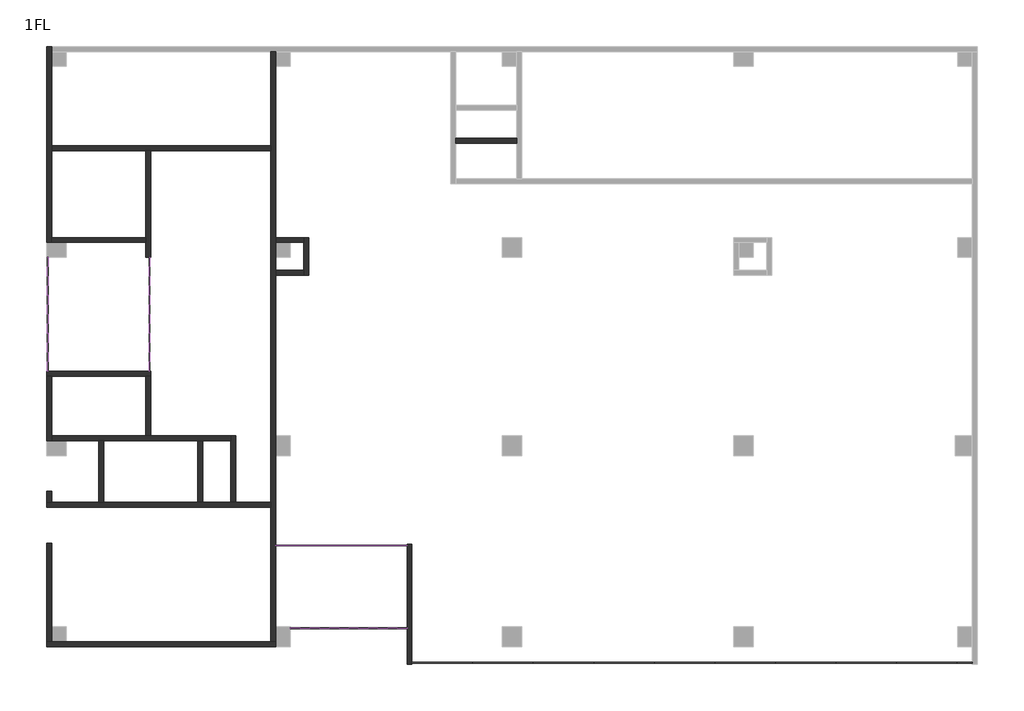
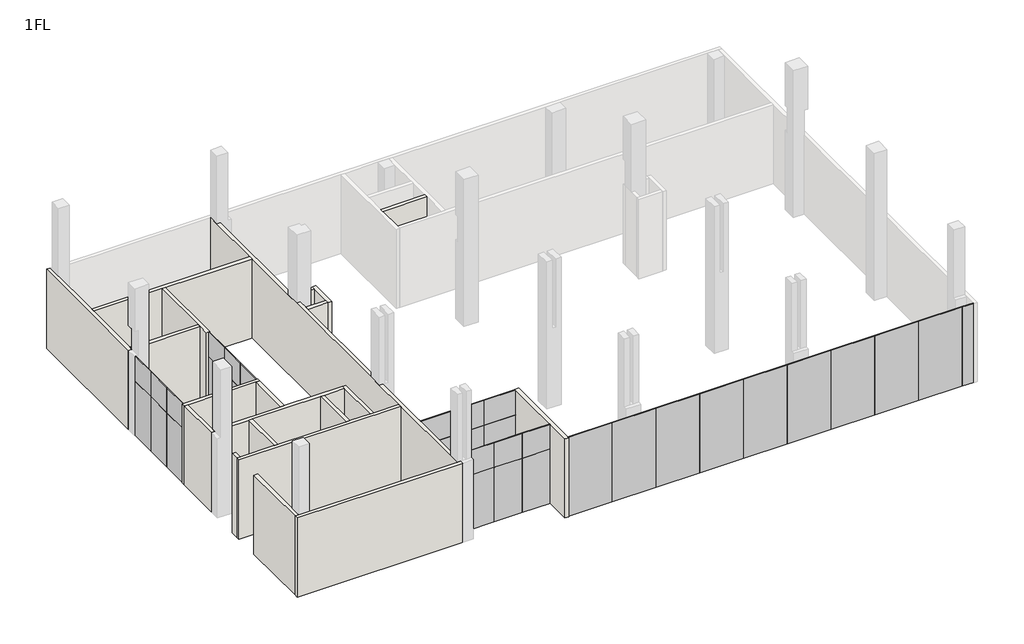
# One storey, part 1 of 2: 34 plates, 21 walls.
"""IFC4 building model written with IfcOpenShell, lengths in millimetres."""

from ifc_helpers import new_model, si_unit, frame, origin, place, context, project, spatial, polyline, outline, extrude, faceted_brep, transform, mapped, element, save
from components import plate_597a431c, plate_265bd5af, plate_b5d6bf1f, plate_1c8cb44b, plate_1488bce0, plate_3adb60b4, plate_892399b0, plate_38e41338, plate_80cdc29d, plate_bbb8b8d4

model = new_model("IFC4")

# Units and contexts
model_context = context("Model", 3, world=origin())
ifc_project = project(units=[si_unit("LENGTHUNIT", "METRE", prefix="MILLI")], contexts=[model_context])

# Site, building, storey
site = spatial("IfcSite", under=ifc_project)
building = spatial("IfcBuilding", under=site)
storey = spatial("IfcBuildingStorey", under=building, Name="1FL", Elevation=100.0)

# Plates
placement = place(None, origin())
plate_shape = plate_597a431c(model_context)
element("IfcPlate", 1, ObjectType="システム パネル : ガラス", at=placement, inside=storey, context=model_context, shape_type="MappedRepresentation", body=[
    mapped(plate_shape, transform((-11729.4943914, -6935.4527426, 100.0), x_axis=(1.0, 0.0, 0.0), y_axis=(0.0, 1.0, 0.0), z_axis=(0.0, 0.0, 1.0))),
])
element("IfcPlate", 2, ObjectType="システム パネル : ガラス", at=placement, inside=storey, context=model_context, shape_type="MappedRepresentation", body=[
    mapped(plate_shape, transform((-10554.4943915, -6935.4527426, 100.0), x_axis=(1.0, 0.0, 0.0), y_axis=(0.0, 1.0, 0.0), z_axis=(0.0, 0.0, 1.0))),
])
element("IfcPlate", 3, ObjectType="システム パネル : ガラス", at=placement, inside=storey, context=model_context, shape_type="MappedRepresentation", body=[
    mapped(plate_shape, transform((-9379.4943915, -6935.4527426, 100.0), x_axis=(1.0, 0.0, 0.0), y_axis=(0.0, 1.0, 0.0), z_axis=(0.0, 0.0, 1.0))),
])
plate_2_shape = plate_265bd5af(model_context)
element("IfcPlate", 4, ObjectType="システム パネル : ガラス", at=placement, inside=storey, context=model_context, shape_type="MappedRepresentation", body=[
    mapped(plate_2_shape, transform((-12104.4943914, -4435.4527426, 100.0), x_axis=(1.0, 0.0, 0.0), y_axis=(0.0, 1.0, 0.0), z_axis=(0.0, 0.0, 1.0))),
])
element("IfcPlate", 5, ObjectType="システム パネル : ガラス", at=placement, inside=storey, context=model_context, shape_type="MappedRepresentation", body=[
    mapped(plate_2_shape, transform((-10779.4943915, -4435.4527426, 100.0), x_axis=(1.0, 0.0, 0.0), y_axis=(0.0, 1.0, 0.0), z_axis=(0.0, 0.0, 1.0))),
])
element("IfcPlate", 6, ObjectType="システム パネル : ガラス", at=placement, inside=storey, context=model_context, shape_type="MappedRepresentation", body=[
    mapped(plate_2_shape, transform((-9454.4943915, -4435.4527426, 100.0), x_axis=(1.0, 0.0, 0.0), y_axis=(0.0, 1.0, 0.0), z_axis=(0.0, 0.0, 1.0))),
])
plate_3_shape = plate_b5d6bf1f(model_context)
element("IfcPlate", 7, ObjectType="システム パネル : ガラス", at=placement, inside=storey, context=model_context, shape_type="MappedRepresentation", body=[
    mapped(plate_3_shape, transform((-19616.9943915, 1364.5472575, 100.0), x_axis=(0.0, 1.0, 0.0), y_axis=(-1.0, 0.0, 0.0), z_axis=(0.0, 0.0, 1.0))),
])
element("IfcPlate", 8, ObjectType="システム パネル : ガラス", at=placement, inside=storey, context=model_context, shape_type="MappedRepresentation", body=[
    mapped(plate_3_shape, transform((-19616.9943915, 2514.5472574, 100.0), x_axis=(0.0, 1.0, 0.0), y_axis=(-1.0, 0.0, 0.0), z_axis=(0.0, 0.0, 1.0))),
])
element("IfcPlate", 9, ObjectType="システム パネル : ガラス", at=placement, inside=storey, context=model_context, shape_type="MappedRepresentation", body=[
    mapped(plate_3_shape, transform((-19616.9943915, 3664.5472574, 100.0), x_axis=(0.0, 1.0, 0.0), y_axis=(-1.0, 0.0, 0.0), z_axis=(0.0, 0.0, 1.0))),
])
plate_4_shape = plate_1c8cb44b(model_context)
element("IfcPlate", 10, ObjectType="システム パネル : ガラス", at=placement, inside=storey, context=model_context, shape_type="MappedRepresentation", body=[
    mapped(plate_4_shape, transform((-16616.9943915, 1364.5472575, 100.0), x_axis=(0.0, 1.0, 0.0), y_axis=(-1.0, 0.0, 0.0), z_axis=(0.0, 0.0, 1.0))),
])
element("IfcPlate", 11, ObjectType="システム パネル : ガラス", at=placement, inside=storey, context=model_context, shape_type="MappedRepresentation", body=[
    mapped(plate_4_shape, transform((-16616.9943915, 2514.5472574, 100.0), x_axis=(0.0, 1.0, 0.0), y_axis=(-1.0, 0.0, 0.0), z_axis=(0.0, 0.0, 1.0))),
])
element("IfcPlate", 12, ObjectType="システム パネル : ガラス", at=placement, inside=storey, context=model_context, shape_type="MappedRepresentation", body=[
    mapped(plate_4_shape, transform((-16616.9943915, 3664.5472574, 100.0), x_axis=(0.0, 1.0, 0.0), y_axis=(-1.0, 0.0, 0.0), z_axis=(0.0, 0.0, 1.0))),
])
plate_5_shape = plate_1488bce0(model_context)
element("IfcPlate", 13, ObjectType="システム パネル : ガラス", at=placement, inside=storey, context=model_context, shape_type="MappedRepresentation", body=[
    mapped(plate_5_shape, transform((-11729.4943914, -6935.4527426, 2500.0), x_axis=(1.0, 0.0, 0.0), y_axis=(0.0, 1.0, 0.0), z_axis=(0.0, 0.0, 1.0))),
])
element("IfcPlate", 14, ObjectType="システム パネル : ガラス", at=placement, inside=storey, context=model_context, shape_type="MappedRepresentation", body=[
    mapped(plate_5_shape, transform((-10554.4943915, -6935.4527426, 2500.0), x_axis=(1.0, 0.0, 0.0), y_axis=(0.0, 1.0, 0.0), z_axis=(0.0, 0.0, 1.0))),
])
element("IfcPlate", 15, ObjectType="システム パネル : ガラス", at=placement, inside=storey, context=model_context, shape_type="MappedRepresentation", body=[
    mapped(plate_5_shape, transform((-9379.4943915, -6935.4527426, 2500.0), x_axis=(1.0, 0.0, 0.0), y_axis=(0.0, 1.0, 0.0), z_axis=(0.0, 0.0, 1.0))),
])
plate_6_shape = plate_3adb60b4(model_context)
element("IfcPlate", 16, ObjectType="システム パネル : ガラス", at=placement, inside=storey, context=model_context, shape_type="MappedRepresentation", body=[
    mapped(plate_6_shape, transform((-12104.4943914, -4435.4527426, 2500.0), x_axis=(1.0, 0.0, 0.0), y_axis=(0.0, 1.0, 0.0), z_axis=(0.0, 0.0, 1.0))),
])
element("IfcPlate", 17, ObjectType="システム パネル : ガラス", at=placement, inside=storey, context=model_context, shape_type="MappedRepresentation", body=[
    mapped(plate_6_shape, transform((-10779.4943915, -4435.4527426, 2500.0), x_axis=(1.0, 0.0, 0.0), y_axis=(0.0, 1.0, 0.0), z_axis=(0.0, 0.0, 1.0))),
])
element("IfcPlate", 18, ObjectType="システム パネル : ガラス", at=placement, inside=storey, context=model_context, shape_type="MappedRepresentation", body=[
    mapped(plate_6_shape, transform((-9454.4943915, -4435.4527426, 2500.0), x_axis=(1.0, 0.0, 0.0), y_axis=(0.0, 1.0, 0.0), z_axis=(0.0, 0.0, 1.0))),
])
plate_7_shape = plate_892399b0(model_context)
element("IfcPlate", 19, ObjectType="システム パネル : ガラス", at=placement, inside=storey, context=model_context, shape_type="MappedRepresentation", body=[
    mapped(plate_7_shape, transform((-19616.9943915, 1364.5472575, 2500.0), x_axis=(0.0, 1.0, 0.0), y_axis=(-1.0, 0.0, 0.0), z_axis=(0.0, 0.0, 1.0))),
])
element("IfcPlate", 20, ObjectType="システム パネル : ガラス", at=placement, inside=storey, context=model_context, shape_type="MappedRepresentation", body=[
    mapped(plate_7_shape, transform((-19616.9943915, 2514.5472574, 2500.0), x_axis=(0.0, 1.0, 0.0), y_axis=(-1.0, 0.0, 0.0), z_axis=(0.0, 0.0, 1.0))),
])
element("IfcPlate", 21, ObjectType="システム パネル : ガラス", at=placement, inside=storey, context=model_context, shape_type="MappedRepresentation", body=[
    mapped(plate_7_shape, transform((-19616.9943915, 3664.5472574, 2500.0), x_axis=(0.0, 1.0, 0.0), y_axis=(-1.0, 0.0, 0.0), z_axis=(0.0, 0.0, 1.0))),
])
plate_8_shape = plate_38e41338(model_context)
element("IfcPlate", 22, ObjectType="システム パネル : ガラス", at=placement, inside=storey, context=model_context, shape_type="MappedRepresentation", body=[
    mapped(plate_8_shape, transform((-16616.9943915, 1364.5472575, 2500.0), x_axis=(0.0, 1.0, 0.0), y_axis=(-1.0, 0.0, 0.0), z_axis=(0.0, 0.0, 1.0))),
])
element("IfcPlate", 23, ObjectType="システム パネル : ガラス", at=placement, inside=storey, context=model_context, shape_type="MappedRepresentation", body=[
    mapped(plate_8_shape, transform((-16616.9943915, 2514.5472574, 2500.0), x_axis=(0.0, 1.0, 0.0), y_axis=(-1.0, 0.0, 0.0), z_axis=(0.0, 0.0, 1.0))),
])
element("IfcPlate", 24, ObjectType="システム パネル : ガラス", at=placement, inside=storey, context=model_context, shape_type="MappedRepresentation", body=[
    mapped(plate_8_shape, transform((-16616.9943915, 3664.5472574, 2500.0), x_axis=(0.0, 1.0, 0.0), y_axis=(-1.0, 0.0, 0.0), z_axis=(0.0, 0.0, 1.0))),
])
plate_9_shape = plate_80cdc29d(model_context)
element("IfcPlate", 25, ObjectType="システム パネル : ガラス", at=placement, inside=storey, context=model_context, shape_type="MappedRepresentation", body=[
    mapped(plate_9_shape, transform((-7726.9943913, -8060.4527426, 100.0), x_axis=(1.0, 0.0, 0.0), y_axis=(0.0, 1.0, 0.0), z_axis=(0.0, 0.0, 1.0))),
])
element("IfcPlate", 26, ObjectType="システム パネル : ガラス", at=placement, inside=storey, context=model_context, shape_type="MappedRepresentation", body=[
    mapped(plate_9_shape, transform((-5896.9943911, -8060.4527426, 100.0), x_axis=(1.0, 0.0, 0.0), y_axis=(0.0, 1.0, 0.0), z_axis=(0.0, 0.0, 1.0))),
])
element("IfcPlate", 27, ObjectType="システム パネル : ガラス", at=placement, inside=storey, context=model_context, shape_type="MappedRepresentation", body=[
    mapped(plate_9_shape, transform((-4066.9943911, -8060.4527426, 100.0), x_axis=(1.0, 0.0, 0.0), y_axis=(0.0, 1.0, 0.0), z_axis=(0.0, 0.0, 1.0))),
])
element("IfcPlate", 28, ObjectType="システム パネル : ガラス", at=placement, inside=storey, context=model_context, shape_type="MappedRepresentation", body=[
    mapped(plate_9_shape, transform((-2236.9943911, -8060.4527426, 100.0), x_axis=(1.0, 0.0, 0.0), y_axis=(0.0, 1.0, 0.0), z_axis=(0.0, 0.0, 1.0))),
])
element("IfcPlate", 29, ObjectType="システム パネル : ガラス", at=placement, inside=storey, context=model_context, shape_type="MappedRepresentation", body=[
    mapped(plate_9_shape, transform((-406.9943911, -8060.4527426, 100.0), x_axis=(1.0, 0.0, 0.0), y_axis=(0.0, 1.0, 0.0), z_axis=(0.0, 0.0, 1.0))),
])
element("IfcPlate", 30, ObjectType="システム パネル : ガラス", at=placement, inside=storey, context=model_context, shape_type="MappedRepresentation", body=[
    mapped(plate_9_shape, transform((1423.0056089, -8060.4527426, 100.0), x_axis=(1.0, 0.0, 0.0), y_axis=(0.0, 1.0, 0.0), z_axis=(0.0, 0.0, 1.0))),
])
element("IfcPlate", 31, ObjectType="システム パネル : ガラス", at=placement, inside=storey, context=model_context, shape_type="MappedRepresentation", body=[
    mapped(plate_9_shape, transform((3253.0056089, -8060.4527426, 100.0), x_axis=(1.0, 0.0, 0.0), y_axis=(0.0, 1.0, 0.0), z_axis=(0.0, 0.0, 1.0))),
])
element("IfcPlate", 32, ObjectType="システム パネル : ガラス", at=placement, inside=storey, context=model_context, shape_type="MappedRepresentation", body=[
    mapped(plate_9_shape, transform((5083.0056089, -8060.4527426, 100.0), x_axis=(1.0, 0.0, 0.0), y_axis=(0.0, 1.0, 0.0), z_axis=(0.0, 0.0, 1.0))),
])
element("IfcPlate", 33, ObjectType="システム パネル : ガラス", at=placement, inside=storey, context=model_context, shape_type="MappedRepresentation", body=[
    mapped(plate_9_shape, transform((6913.0056089, -8060.4527426, 100.0), x_axis=(1.0, 0.0, 0.0), y_axis=(0.0, 1.0, 0.0), z_axis=(0.0, 0.0, 1.0))),
])
plate_10_shape = plate_bbb8b8d4(model_context)
element("IfcPlate", 34, ObjectType="システム パネル : ガラス", at=placement, inside=storey, context=model_context, shape_type="MappedRepresentation", body=[
    mapped(plate_10_shape, transform((8068.0056087, -8060.4527426, 100.0), x_axis=(1.0, 0.0, 0.0), y_axis=(0.0, 1.0, 0.0), z_axis=(0.0, 0.0, 1.0))),
])

# Walls
element("IfcWall", 35, ObjectType="標準-150mm", at=placement, inside=storey, context=model_context, shape_type="Brep", body=[
    faceted_brep([(-12766.9943915, -7385.4527426, 100.0), (-12916.9943915, -7385.4527426, 100.0), (-19091.9943915, -7385.4527426, 100.0), (-19541.9943915, -7385.4527426, 100.0), (-19691.9943915, -7385.4527426, 100.0), (-19691.9943915, -7385.4527426, 3600.0), (-19541.9943915, -7385.4527426, 3600.0), (-12916.9943915, -7385.4527426, 3600.0), (-12766.9943915, -7385.4527426, 3600.0), (-12766.9943915, -7535.4527426, 100.0), (-12766.9943915, -7535.4527426, 3600.0), (-19691.9943915, -7535.4527426, 3600.0), (-19691.9943915, -7535.4527426, 100.0)], [[[0, 1, 2, 3, 4, 5, 6, 7, 8]], [[9, 10, 11, 12]], [[4, 3, 2, 1, 0, 9, 12]], [[8, 7, 6, 5, 11, 10]], [[5, 4, 12, 11]], [[0, 8, 10, 9]]]),
])
element("IfcWall", 36, ObjectType="標準-150mm", at=placement, inside=storey, context=model_context, shape_type="Brep", body=[
    faceted_brep([(-19541.9943915, -7385.4527426, 100.0), (-19541.9943915, -6935.4527426, 100.0), (-19541.9943915, -4410.4527426, 100.0), (-19541.9943915, -4410.4527426, 3600.0), (-19541.9943915, -7385.4527426, 3600.0), (-19691.9943915, -7385.4527426, 100.0), (-19691.9943915, -7385.4527426, 3600.0), (-19691.9943915, -4410.4527426, 3600.0), (-19691.9943915, -4410.4527426, 100.0)], [[[0, 1, 2, 3, 4]], [[5, 6, 7, 8]], [[2, 1, 0, 5, 8]], [[3, 2, 8, 7]], [[4, 3, 7, 6]], [[0, 4, 6, 5]]]),
])
element("IfcWall", 37, ObjectType="標準-150mm", at=placement, inside=storey, context=model_context, shape_type="Brep", body=[
    faceted_brep([(-19541.9943915, 4689.5472574, 100.0), (-19091.9943915, 4689.5472574, 100.0), (-16691.9943915, 4689.5472574, 100.0), (-16691.9943915, 4689.5472574, 3600.0), (-19541.9943915, 4689.5472574, 3600.0), (-19541.9943915, 4839.5472574, 100.0), (-19541.9943915, 4839.5472574, 3600.0), (-16691.9943915, 4839.5472574, 3600.0), (-16691.9943915, 4839.5472574, 100.0)], [[[0, 1, 2, 3, 4]], [[5, 6, 7, 8]], [[2, 1, 0, 5, 8]], [[4, 3, 7, 6]], [[3, 2, 8, 7]], [[0, 4, 6, 5]]]),
])
element("IfcWall", 38, ObjectType="標準-150mm", at=placement, inside=storey, context=model_context, shape_type="SweptSolid", body=[
    extrude(outline(polyline([(-16541.9943915, 639.5472574), (-16541.9943915, -1160.4527426), (-16691.9943915, -1160.4527426), (-16691.9943915, 639.5472574), (-16541.9943915, 639.5472574)])), frame((0.0, 0.0, 100.0), z_axis=(0.0, 0.0, 1.0), x_axis=(1.0, 0.0, 0.0)), (0.0, 0.0, 1.0), 3500.0),
])
element("IfcWall", 39, ObjectType="標準-150mm", at=placement, inside=storey, context=model_context, shape_type="Brep", body=[
    faceted_brep([(-19541.9943915, 7464.5472574, 100.0), (-16691.9943915, 7464.5472574, 100.0), (-16541.9943915, 7464.5472574, 100.0), (-12916.9943915, 7464.5472574, 100.0), (-12916.9943915, 7464.5472574, 3600.0), (-16541.9943915, 7464.5472574, 3600.0), (-16691.9943915, 7464.5472574, 3600.0), (-19541.9943915, 7464.5472574, 3600.0), (-19541.9943915, 7614.5472574, 100.0), (-19541.9943915, 7614.5472574, 3600.0), (-12916.9943915, 7614.5472574, 3600.0), (-12916.9943915, 7614.5472574, 100.0)], [[[0, 1, 2, 3, 4, 5, 6, 7]], [[8, 9, 10, 11]], [[3, 2, 1, 0, 8, 11]], [[7, 6, 5, 4, 10, 9]], [[0, 7, 9, 8]], [[4, 3, 11, 10]]]),
])
element("IfcWall", 40, ObjectType="標準-150mm", at=placement, inside=storey, context=model_context, shape_type="Brep", body=[
    faceted_brep([(-12916.9943915, 10464.5472574, 100.0), (-12916.9943915, 7614.5472574, 100.0), (-12916.9943915, 7464.5472574, 100.0), (-12916.9943915, -3160.4527426, 100.0), (-12916.9943915, -3310.4527426, 100.0), (-12916.9943915, -7385.4527426, 100.0), (-12916.9943915, -7385.4527426, 3600.0), (-12916.9943915, -6935.4527426, 3600.0), (-12916.9943915, -3310.4527426, 3600.0), (-12916.9943915, -3160.4527426, 3600.0), (-12916.9943915, -1760.4527426, 3600.0), (-12916.9943915, -1160.4527426, 3600.0), (-12916.9943915, 4239.5472574, 3600.0), (-12916.9943915, 4839.5472574, 3600.0), (-12916.9943915, 7464.5472574, 3600.0), (-12916.9943915, 7614.5472574, 3600.0), (-12916.9943915, 10014.5472574, 3600.0), (-12916.9943915, 10464.5472574, 3600.0), (-12766.9943915, 10464.5472574, 100.0), (-12766.9943915, 10464.5472574, 3600.0), (-12766.9943915, 10014.5472574, 3600.0), (-12766.9943915, 4839.5472574, 3600.0), (-12766.9943915, 4689.5472574, 3600.0), (-12766.9943915, 4239.5472574, 3600.0), (-12766.9943915, 3844.5472574, 3600.0), (-12766.9943915, 3694.5472574, 3600.0), (-12766.9943915, -1160.4527426, 3600.0), (-12766.9943915, -1760.4527426, 3600.0), (-12766.9943915, -6935.4527426, 3600.0), (-12766.9943915, -7385.4527426, 3600.0), (-12766.9943915, -7385.4527426, 100.0), (-12766.9943915, -6935.4527426, 100.0), (-12766.9943915, -1760.4527426, 100.0), (-12766.9943915, -1160.4527426, 100.0), (-12766.9943915, 3694.5472574, 100.0), (-12766.9943915, 3844.5472574, 100.0), (-12766.9943915, 4239.5472574, 100.0), (-12766.9943915, 4689.5472574, 100.0), (-12766.9943915, 4839.5472574, 100.0), (-12766.9943915, 10014.5472574, 100.0)], [[[0, 1, 2, 3, 4, 5, 6, 7, 8, 9, 10, 11, 12, 13, 14, 15, 16, 17]], [[18, 19, 20, 21, 22, 23, 24, 25, 26, 27, 28, 29, 30, 31, 32, 33, 34, 35, 36, 37, 38, 39]], [[5, 4, 3, 2, 1, 0, 18, 39, 38, 37, 36, 35, 34, 33, 32, 31, 30]], [[17, 16, 15, 14, 13, 12, 11, 10, 9, 8, 7, 6, 29, 28, 27, 26, 25, 24, 23, 22, 21, 20, 19]], [[0, 17, 19, 18]], [[6, 5, 30, 29]]]),
])
element("IfcWall", 41, ObjectType="標準-150mm", at=placement, inside=storey, context=model_context, shape_type="Brep", body=[
    faceted_brep([(-19691.9943915, 639.5472574, 100.0), (-19541.9943915, 639.5472574, 100.0), (-16691.9943915, 639.5472574, 100.0), (-16541.9943915, 639.5472574, 100.0), (-16541.9943915, 639.5472574, 3600.0), (-16691.9943915, 639.5472574, 3600.0), (-19541.9943915, 639.5472574, 3600.0), (-19691.9943915, 639.5472574, 3600.0), (-19691.9943915, 789.5472574, 100.0), (-19691.9943915, 789.5472574, 3600.0), (-16541.9943915, 789.5472574, 3600.0), (-16541.9943915, 789.5472574, 100.0)], [[[0, 1, 2, 3, 4, 5, 6, 7]], [[8, 9, 10, 11]], [[3, 2, 1, 0, 8, 11]], [[7, 6, 5, 4, 10, 9]], [[0, 7, 9, 8]], [[4, 3, 11, 10]]]),
])
element("IfcWall", 42, ObjectType="標準-150mm", at=placement, inside=storey, context=model_context, shape_type="Brep", body=[
    faceted_brep([(-19541.9943915, -1310.4527426, 100.0), (-19091.9943915, -1310.4527426, 100.0), (-18116.9943915, -1310.4527426, 100.0), (-17966.9943915, -1310.4527426, 100.0), (-15116.9943915, -1310.4527426, 100.0), (-14966.9943915, -1310.4527426, 100.0), (-14116.9943915, -1310.4527426, 100.0), (-14116.9943915, -1310.4527426, 3600.0), (-14966.9943915, -1310.4527426, 3600.0), (-15116.9943915, -1310.4527426, 3600.0), (-17966.9943915, -1310.4527426, 3600.0), (-18116.9943915, -1310.4527426, 3600.0), (-19091.9943915, -1310.4527426, 3600.0), (-19541.9943915, -1310.4527426, 3600.0), (-19541.9943915, -1160.4527426, 100.0), (-19541.9943915, -1160.4527426, 3600.0), (-19091.9943915, -1160.4527426, 3600.0), (-16691.9943915, -1160.4527426, 3600.0), (-16541.9943915, -1160.4527426, 3600.0), (-14116.9943915, -1160.4527426, 3600.0), (-14116.9943915, -1160.4527426, 100.0), (-16541.9943915, -1160.4527426, 100.0), (-16691.9943915, -1160.4527426, 100.0)], [[[0, 1, 2, 3, 4, 5, 6, 7, 8, 9, 10, 11, 12, 13]], [[14, 15, 16, 17, 18, 19, 20, 21, 22]], [[6, 5, 4, 3, 2, 1, 0, 14, 22, 21, 20]], [[13, 12, 11, 10, 9, 8, 7, 19, 18, 17, 16, 15]], [[7, 6, 20, 19]], [[0, 13, 15, 14]]]),
])
element("IfcWall", 43, ObjectType="標準-150mm", at=placement, inside=storey, context=model_context, shape_type="SweptSolid", body=[
    extrude(outline(polyline([(-18116.9943915, -3160.4527426), (-18116.9943915, -1310.4527426), (-17966.9943915, -1310.4527426), (-17966.9943915, -3160.4527426), (-18116.9943915, -3160.4527426)])), frame((0.0, 0.0, 100.0), z_axis=(0.0, 0.0, 1.0), x_axis=(1.0, 0.0, 0.0)), (0.0, 0.0, 1.0), 3500.0),
])
element("IfcWall", 44, ObjectType="標準-150mm", at=placement, inside=storey, context=model_context, shape_type="Brep", body=[
    faceted_brep([(-19691.9943915, -3310.4527426, 100.0), (-12916.9943915, -3310.4527426, 100.0), (-12916.9943915, -3310.4527426, 3600.0), (-19691.9943915, -3310.4527426, 3600.0), (-19691.9943915, -3160.4527426, 100.0), (-19691.9943915, -3160.4527426, 3600.0), (-19541.9943915, -3160.4527426, 3600.0), (-18116.9943915, -3160.4527426, 3600.0), (-17966.9943915, -3160.4527426, 3600.0), (-15116.9943915, -3160.4527426, 3600.0), (-14966.9943915, -3160.4527426, 3600.0), (-14116.9943915, -3160.4527426, 3600.0), (-13966.9943915, -3160.4527426, 3600.0), (-12916.9943915, -3160.4527426, 3600.0), (-12916.9943915, -3160.4527426, 100.0), (-13966.9943915, -3160.4527426, 100.0), (-14116.9943915, -3160.4527426, 100.0), (-14966.9943915, -3160.4527426, 100.0), (-15116.9943915, -3160.4527426, 100.0), (-17966.9943915, -3160.4527426, 100.0), (-18116.9943915, -3160.4527426, 100.0), (-19541.9943915, -3160.4527426, 100.0)], [[[0, 1, 2, 3]], [[4, 5, 6, 7, 8, 9, 10, 11, 12, 13, 14, 15, 16, 17, 18, 19, 20, 21]], [[1, 0, 4, 21, 20, 19, 18, 17, 16, 15, 14]], [[3, 2, 13, 12, 11, 10, 9, 8, 7, 6, 5]], [[2, 1, 14, 13]], [[0, 3, 5, 4]]]),
])
element("IfcWall", 45, ObjectType="標準-150mm", at=placement, inside=storey, context=model_context, shape_type="Brep", body=[
    faceted_brep([(-14116.9943915, -1160.4527426, 100.0), (-14116.9943915, -1310.4527426, 100.0), (-14116.9943915, -3160.4527426, 100.0), (-14116.9943915, -3160.4527426, 3600.0), (-14116.9943915, -1310.4527426, 3600.0), (-14116.9943915, -1160.4527426, 3600.0), (-13966.9943915, -1160.4527426, 100.0), (-13966.9943915, -1160.4527426, 3600.0), (-13966.9943915, -3160.4527426, 3600.0), (-13966.9943915, -3160.4527426, 100.0)], [[[0, 1, 2, 3, 4, 5]], [[6, 7, 8, 9]], [[2, 1, 0, 6, 9]], [[5, 4, 3, 8, 7]], [[3, 2, 9, 8]], [[0, 5, 7, 6]]]),
])
element("IfcWall", 46, ObjectType="標準-150mm", at=placement, inside=storey, context=model_context, shape_type="SweptSolid", body=[
    extrude(outline(polyline([(-15116.9943915, -3160.4527426), (-15116.9943915, -1310.4527426), (-14966.9943915, -1310.4527426), (-14966.9943915, -3160.4527426), (-15116.9943915, -3160.4527426)])), frame((0.0, 0.0, 100.0), z_axis=(0.0, 0.0, 1.0), x_axis=(1.0, 0.0, 0.0)), (0.0, 0.0, 1.0), 3500.0),
])
element("IfcWall", 47, ObjectType="標準-150mm", at=placement, inside=storey, context=model_context, shape_type="Brep", body=[
    faceted_brep([(-19541.9943915, -1310.4527426, 100.0), (-19541.9943915, -1160.4527426, 100.0), (-19541.9943915, 639.5472574, 100.0), (-19541.9943915, 639.5472574, 3600.0), (-19541.9943915, -1160.4527426, 3600.0), (-19541.9943915, -1310.4527426, 3600.0), (-19691.9943915, -1310.4527426, 100.0), (-19691.9943915, -1310.4527426, 3600.0), (-19691.9943915, 639.5472574, 3600.0), (-19691.9943915, 639.5472574, 100.0)], [[[0, 1, 2, 3, 4, 5]], [[6, 7, 8, 9]], [[2, 1, 0, 6, 9]], [[5, 4, 3, 8, 7]], [[3, 2, 9, 8]], [[0, 5, 7, 6]]]),
])
element("IfcWall", 48, ObjectType="標準-150mm", at=placement, inside=storey, context=model_context, shape_type="SweptSolid", body=[
    extrude(outline(polyline([(-19541.9943915, -2835.4527426), (-19541.9943915, -3160.4527426), (-19691.9943915, -3160.4527426), (-19691.9943915, -2835.4527426), (-19541.9943915, -2835.4527426)])), frame((0.0, 0.0, 100.0), z_axis=(0.0, 0.0, 1.0), x_axis=(1.0, 0.0, 0.0)), (0.0, 0.0, 1.0), 3500.0),
])
element("IfcWall", 49, ObjectType="標準-150mm", at=placement, inside=storey, context=model_context, shape_type="SweptSolid", body=[
    extrude(outline(polyline([(-8791.9943915, -8060.4527426), (-8791.9943915, -4435.4527426), (-8641.9943915, -4435.4527426), (-8641.9943915, -8060.4527426), (-8791.9943915, -8060.4527426)])), frame((0.0, 0.0, 100.0), z_axis=(0.0, 0.0, 1.0), x_axis=(1.0, 0.0, 0.0)), (0.0, 0.0, 1.0), 3500.0),
])
element("IfcWall", 50, ObjectType="標準-150mm", at=placement, inside=storey, context=model_context, shape_type="SweptSolid", body=[
    extrude(outline(polyline([(-5466.9943915, 7689.5472574), (-7316.9943915, 7689.5472574), (-7316.9943915, 7839.5472574), (-5466.9943915, 7839.5472574), (-5466.9943915, 7689.5472574)])), frame((0.0, 0.0, 100.0), z_axis=(0.0, 0.0, 1.0), x_axis=(1.0, 0.0, 0.0)), (0.0, 0.0, 1.0), 3500.0),
])
element("IfcWall", 51, ObjectType="標準-150mm", at=placement, inside=storey, context=model_context, shape_type="Brep", body=[
    faceted_brep([(-19541.9943915, 4689.5472574, 100.0), (-19541.9943915, 4839.5472574, 100.0), (-19541.9943915, 7464.5472574, 100.0), (-19541.9943915, 7614.5472574, 100.0), (-19541.9943915, 10014.5472574, 100.0), (-19541.9943915, 10464.5472574, 100.0), (-19541.9943915, 10614.5472574, 100.0), (-19541.9943915, 10614.5472574, 3600.0), (-19541.9943915, 10464.5472574, 3600.0), (-19541.9943915, 7614.5472574, 3600.0), (-19541.9943915, 7464.5472574, 3600.0), (-19541.9943915, 4839.5472574, 3600.0), (-19541.9943915, 4689.5472574, 3600.0), (-19691.9943915, 4689.5472574, 100.0), (-19691.9943915, 4689.5472574, 3600.0), (-19691.9943915, 10614.5472574, 3600.0), (-19691.9943915, 10614.5472574, 100.0)], [[[0, 1, 2, 3, 4, 5, 6, 7, 8, 9, 10, 11, 12]], [[13, 14, 15, 16]], [[6, 5, 4, 3, 2, 1, 0, 13, 16]], [[12, 11, 10, 9, 8, 7, 15, 14]], [[7, 6, 16, 15]], [[0, 12, 14, 13]]]),
])
element("IfcWall", 52, ObjectType="標準-150mm", at=placement, inside=storey, context=model_context, shape_type="Brep", body=[
    faceted_brep([(-16541.9943915, 4239.5472574, 100.0), (-16541.9943915, 7464.5472574, 100.0), (-16541.9943915, 7464.5472574, 3600.0), (-16541.9943915, 4239.5472574, 3600.0), (-16691.9943915, 4239.5472574, 100.0), (-16691.9943915, 4239.5472574, 3600.0), (-16691.9943915, 4689.5472574, 3600.0), (-16691.9943915, 4839.5472574, 3600.0), (-16691.9943915, 7464.5472574, 3600.0), (-16691.9943915, 7464.5472574, 100.0), (-16691.9943915, 4839.5472574, 100.0), (-16691.9943915, 4689.5472574, 100.0)], [[[0, 1, 2, 3]], [[4, 5, 6, 7, 8, 9, 10, 11]], [[1, 0, 4, 11, 10, 9]], [[3, 2, 8, 7, 6, 5]], [[0, 3, 5, 4]], [[2, 1, 9, 8]]]),
])
element("IfcWall", 53, ObjectType="標準-150mm", at=placement, inside=storey, context=model_context, shape_type="Brep", body=[
    faceted_brep([(-11916.9943915, 4839.5472574, 100.0), (-11916.9943915, 4689.5472574, 100.0), (-11916.9943915, 3844.5472574, 100.0), (-11916.9943915, 3694.5472574, 100.0), (-11916.9943915, 3694.5472574, 3600.0), (-11916.9943915, 3844.5472574, 3600.0), (-11916.9943915, 4689.5472574, 3600.0), (-11916.9943915, 4839.5472574, 3600.0), (-11766.9943915, 4839.5472574, 100.0), (-11766.9943915, 4839.5472574, 3600.0), (-11766.9943915, 3694.5472574, 3600.0), (-11766.9943915, 3694.5472574, 100.0)], [[[0, 1, 2, 3, 4, 5, 6, 7]], [[8, 9, 10, 11]], [[3, 2, 1, 0, 8, 11]], [[7, 6, 5, 4, 10, 9]], [[4, 3, 11, 10]], [[0, 7, 9, 8]]]),
])
element("IfcWall", 54, ObjectType="標準-150mm", at=placement, inside=storey, context=model_context, shape_type="SweptSolid", body=[
    extrude(outline(polyline([(-12766.9943915, 3844.5472574), (-11916.9943915, 3844.5472574), (-11916.9943915, 3694.5472574), (-12766.9943915, 3694.5472574), (-12766.9943915, 3844.5472574)])), frame((0.0, 0.0, 100.0), z_axis=(0.0, 0.0, 1.0), x_axis=(1.0, 0.0, 0.0)), (0.0, 0.0, 1.0), 3500.0),
])
element("IfcWall", 55, ObjectType="標準-150mm", at=placement, inside=storey, context=model_context, shape_type="Brep", body=[
    faceted_brep([(-12766.9943915, 4689.5472574, 100.0), (-12316.9943915, 4689.5472574, 100.0), (-11916.9943915, 4689.5472574, 100.0), (-11916.9943915, 4689.5472574, 3600.0), (-12466.9943915, 4689.5472574, 3600.0), (-12766.9943915, 4689.5472574, 3600.0), (-12766.9943915, 4839.5472574, 100.0), (-12766.9943915, 4839.5472574, 3600.0), (-12466.9943915, 4839.5472574, 3600.0), (-11916.9943915, 4839.5472574, 3600.0), (-11916.9943915, 4839.5472574, 100.0)], [[[0, 1, 2, 3, 4, 5]], [[6, 7, 8, 9, 10]], [[2, 1, 0, 6, 10]], [[5, 4, 3, 9, 8, 7]], [[3, 2, 10, 9]], [[0, 5, 7, 6]]]),
])

save(model, "model.ifc")
